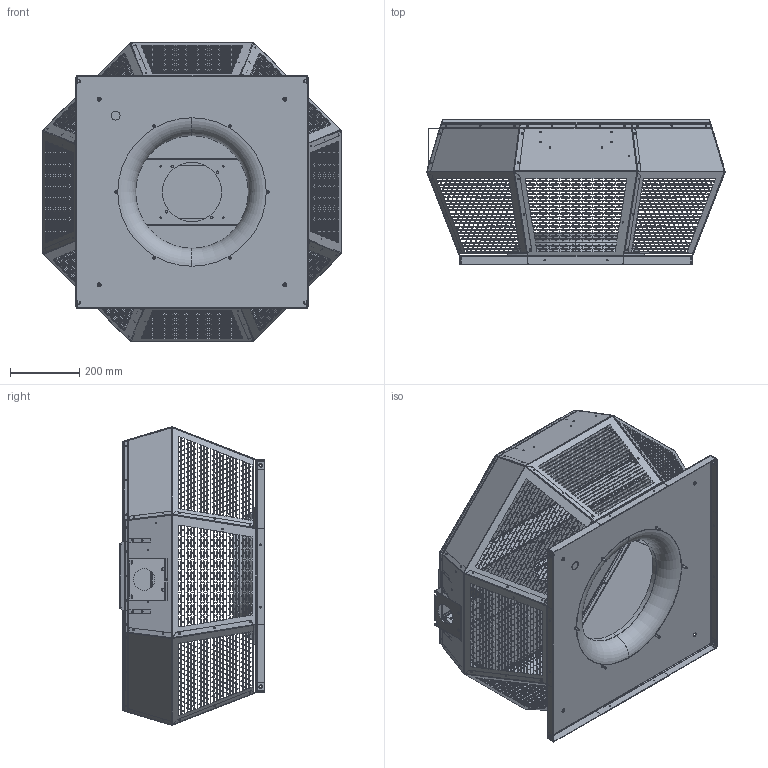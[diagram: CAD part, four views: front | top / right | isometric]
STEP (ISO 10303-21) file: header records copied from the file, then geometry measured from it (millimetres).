
FILE_DESCRIPTION (( 'STEP AP203' ), '1' );
FILE_NAME ('131276-00_DHA500ECP30.STEP', '2015-02-26T10:52:57', ( '' ), ( '' ), 'SwSTEP 2.0', 'SolidWorks 2012', '' );
FILE_SCHEMA (( 'CONFIG_CONTROL_DESIGN' ));
Length unit declared in the file: millimetre
Products named in the file (1): 131276-00_DHA500ECP30
Bounding box: 860.47 x 418.07 x 860.47 mm (x, y, z)
Surface area: 4221675.5 mm2 (no closed solid volume)
Topology: 0 solids, 61 shells, 7175 faces, 32480 edges, 23064 vertices
Faces by surface type: plane 6591, cylinder 528, torus 24, cone 20, bspline 12
Entity records: 330254 total; most frequent: CARTESIAN_POINT 63862, ORIENTED_EDGE 50708, DIRECTION 48085, EDGE_CURVE 32480, VECTOR 30751, LINE 30751, VERTEX_POINT 23064, EDGE_LOOP 12835
